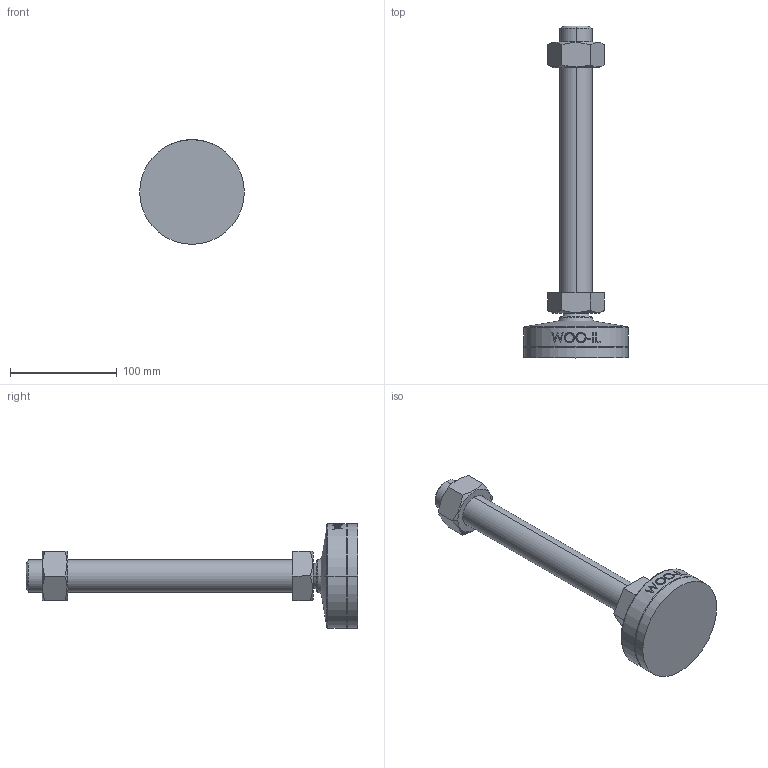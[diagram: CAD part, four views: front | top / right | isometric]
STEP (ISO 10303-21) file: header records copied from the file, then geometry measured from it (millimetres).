
FILE_DESCRIPTION (( 'STEP AP214' ), '1' );
FILE_NAME ('MFNR98-M30-250.step', '2021-02-22T09:10:04', ( '' ), ( '' ), 'SwSTEP 2.0', 'SolidWorks 2019', '' );
FILE_SCHEMA (( 'AUTOMOTIVE_DESIGN' ));
Length unit declared in the file: millimetre
Products named in the file (2): MFNR98-M30-250
Bounding box: 98 x 311 x 98 mm (x, y, z)
Volume: 480933.9 mm3; surface area: 62183.4 mm2
Topology: 2 solids, 2 shells, 103 faces, 239 edges, 152 vertices
Faces by surface type: plane 47, cone 18, cylinder 16, bspline 16, torus 4, sphere 2
Entity records: 4543 total; most frequent: CARTESIAN_POINT 2264, ORIENTED_EDGE 478, DIRECTION 423, EDGE_CURVE 239, AXIS2_PLACEMENT_3D 161, VERTEX_POINT 152, EDGE_LOOP 117, ADVANCED_FACE 103
